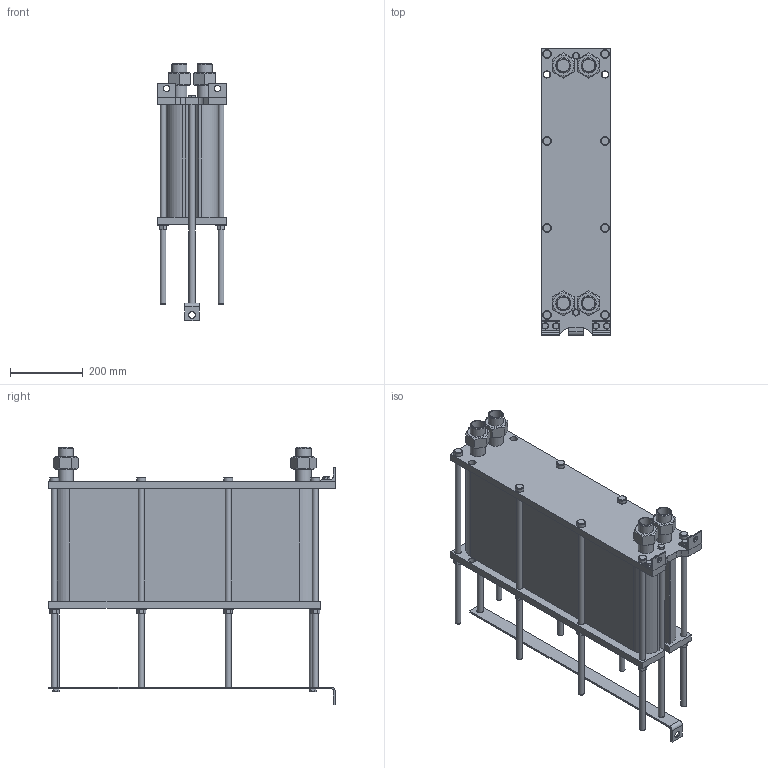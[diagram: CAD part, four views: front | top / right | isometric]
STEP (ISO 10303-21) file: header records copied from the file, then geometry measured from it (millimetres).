
FILE_DESCRIPTION(/* description */ (''),/* implementation_level */ '2;1');
FILE_NAME(/* name */ 'C:\Users\zhuro\Desktop\ENCO\TO\ЭН-008\ЭН-0,5-008-100-1.stp',/* time_stamp */ '2022-06-06T10:54:48+03:00',/* author */ ('zhuro'),/* organization */ (''),/* preprocessor_version */ 'ST-DEVELOPER v18.1',/* originating_system */ 'Autodesk Inventor 2022',/* authorisation */ '');
FILE_SCHEMA (('AUTOMOTIVE_DESIGN { 1 0 10303 214 3 1 1 }'));
Length unit declared in the file: millimetre
Products named in the file (1): ЭН-0,5-008-100-1
Bounding box: 190 x 790 x 709 mm (x, y, z)
Volume: 38571135.5 mm3; surface area: 2021524.8 mm2
Topology: 40 solids, 40 shells, 428 faces, 924 edges, 606 vertices
Faces by surface type: plane 273, cylinder 109, cone 40, torus 6
Full cylindrical faces by diameter (mm): 12 x6, 14 x2, 16 x20, 17 x8, 18 x19, 20 x5, 24 x8, 28 x8, 34.3 x8, 42.3 x8
Entity records: 15843 total; most frequent: CARTESIAN_POINT 5991, DIRECTION 1984, ORIENTED_EDGE 1848, EDGE_CURVE 924, AXIS2_PLACEMENT_3D 715, VERTEX_POINT 606, LINE 554, VECTOR 554
